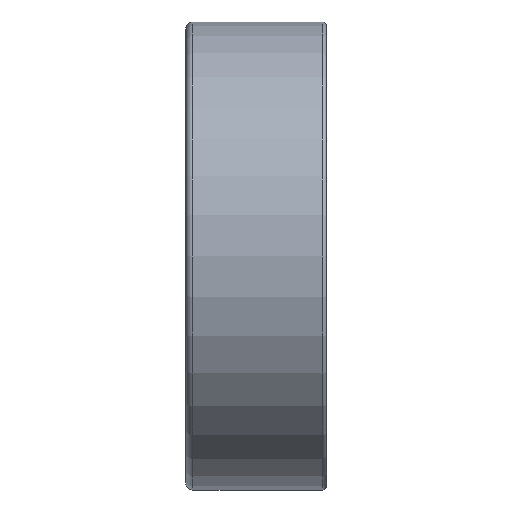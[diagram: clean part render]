
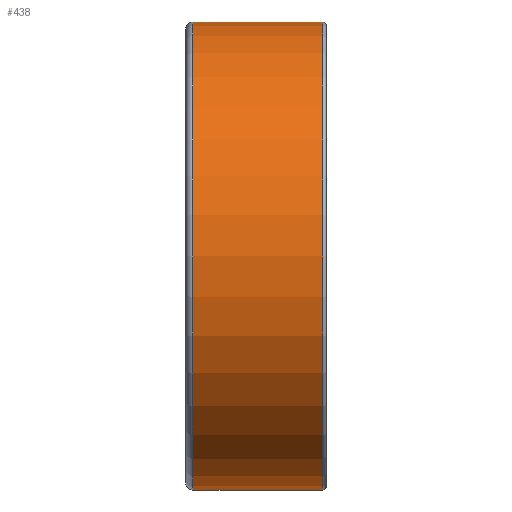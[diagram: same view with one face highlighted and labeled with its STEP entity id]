
A CAD part, front view. The second image highlights one B-rep face of the part: STEP entity #438.
In plain terms, the highlighted cylindrical face has radius 20 mm (diameter 40 mm), a full revolution.
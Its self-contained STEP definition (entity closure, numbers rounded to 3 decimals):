
#146=CYLINDRICAL_SURFACE('',#666,20.);
#218=EDGE_LOOP('',(#302));
#219=EDGE_LOOP('',(#303));
#302=ORIENTED_EDGE('',*,*,#352,.F.);
#303=ORIENTED_EDGE('',*,*,#350,.T.);
#350=EDGE_CURVE('',#607,#607,#370,.T.);
#352=EDGE_CURVE('',#609,#609,#372,.T.);
#370=CIRCLE('',#662,20.);
#372=CIRCLE('',#665,20.);
#438=ADVANCED_FACE('',(#537,#538),#146,.T.);
#537=FACE_BOUND('',#218,.T.);
#538=FACE_BOUND('',#219,.T.);
#607=VERTEX_POINT('',#2170);
#609=VERTEX_POINT('',#2175);
#662=AXIS2_PLACEMENT_3D('',#2169,#769,#770);
#665=AXIS2_PLACEMENT_3D('',#2174,#775,#776);
#666=AXIS2_PLACEMENT_3D('',#2176,#777,#778);
#769=DIRECTION('',(1.,0.,0.));
#770=DIRECTION('',(0.,0.,-1.));
#775=DIRECTION('',(1.,0.,0.));
#776=DIRECTION('',(0.,0.,-1.));
#777=DIRECTION('',(1.,0.,0.));
#778=DIRECTION('',(0.,0.,-1.));
#2169=CARTESIAN_POINT('',(-5.4,0.,0.));
#2170=CARTESIAN_POINT('',(-5.4,0.,-20.));
#2174=CARTESIAN_POINT('',(5.7,0.,0.));
#2175=CARTESIAN_POINT('',(5.7,0.,-20.));
#2176=CARTESIAN_POINT('',(-5.4,0.,0.));
